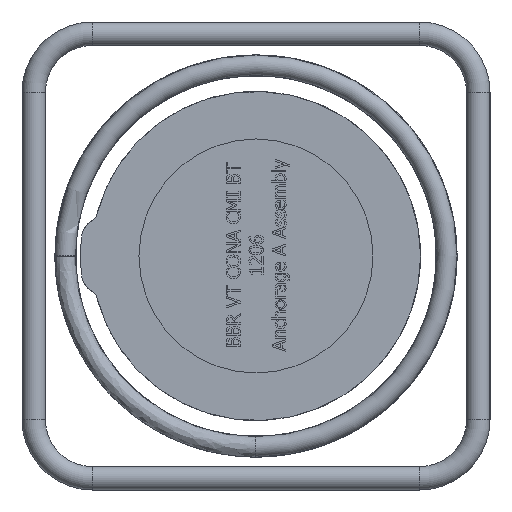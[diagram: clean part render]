
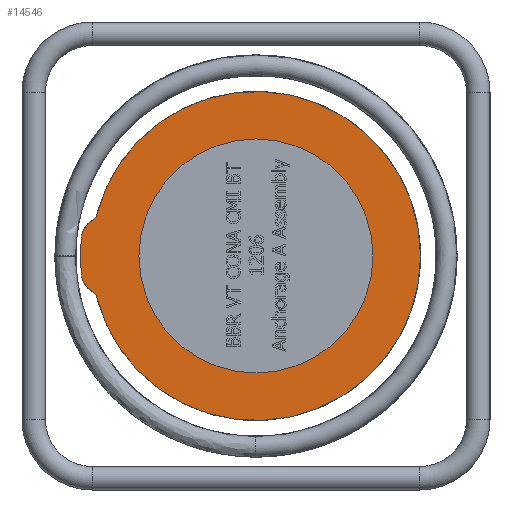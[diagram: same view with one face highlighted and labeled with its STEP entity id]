
A CAD part, left-side view. The second image highlights one B-rep face of the part: STEP entity #14546.
In plain terms, the highlighted planar face has unit normal (-1, 0, 0).
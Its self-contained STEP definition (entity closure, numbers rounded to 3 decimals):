
#102=FACE_BOUND('',#5078,.T.);
#1338=PLANE('',#15131);
#4249=FACE_OUTER_BOUND('',#5077,.T.);
#5077=EDGE_LOOP('',(#12362,#12363,#12364,#12365,#12366,#12367));
#5078=EDGE_LOOP('',(#12368));
#5266=CIRCLE('',#15088,80.);
#5269=CIRCLE('',#15094,5.);
#5277=CIRCLE('',#15108,15.);
#5285=CIRCLE('',#15120,5.);
#5288=CIRCLE('',#15125,112.5);
#5290=CIRCLE('',#15128,15.);
#5292=CIRCLE('',#15132,120.);
#6664=VERTEX_POINT('',#26189);
#6668=VERTEX_POINT('',#26200);
#6669=VERTEX_POINT('',#26202);
#6682=VERTEX_POINT('',#26259);
#6692=VERTEX_POINT('',#26300);
#6693=VERTEX_POINT('',#26302);
#6696=VERTEX_POINT('',#26315);
#8566=EDGE_CURVE('',#6664,#6664,#5266,.T.);
#8570=EDGE_CURVE('',#6668,#6669,#5269,.T.);
#8589=EDGE_CURVE('',#6669,#6682,#5277,.T.);
#8603=EDGE_CURVE('',#6692,#6693,#5285,.T.);
#8607=EDGE_CURVE('',#6668,#6693,#5288,.T.);
#8611=EDGE_CURVE('',#6696,#6692,#5290,.T.);
#8613=EDGE_CURVE('',#6696,#6682,#5292,.T.);
#12362=ORIENTED_EDGE('',*,*,#8611,.F.);
#12363=ORIENTED_EDGE('',*,*,#8613,.T.);
#12364=ORIENTED_EDGE('',*,*,#8589,.F.);
#12365=ORIENTED_EDGE('',*,*,#8570,.F.);
#12366=ORIENTED_EDGE('',*,*,#8607,.T.);
#12367=ORIENTED_EDGE('',*,*,#8603,.F.);
#12368=ORIENTED_EDGE('',*,*,#8566,.T.);
#14546=ADVANCED_FACE('',(#4249,#102),#1338,.T.);
#15088=AXIS2_PLACEMENT_3D('',#26191,#17317,#17318);
#15094=AXIS2_PLACEMENT_3D('',#26203,#17330,#17331);
#15108=AXIS2_PLACEMENT_3D('',#26260,#17365,#17366);
#15120=AXIS2_PLACEMENT_3D('',#26303,#17393,#17394);
#15125=AXIS2_PLACEMENT_3D('',#26309,#17404,#17405);
#15128=AXIS2_PLACEMENT_3D('',#26317,#17412,#17413);
#15131=AXIS2_PLACEMENT_3D('',#26320,#17418,#17419);
#15132=AXIS2_PLACEMENT_3D('',#26321,#17420,#17421);
#17317=DIRECTION('center_axis',(1.,0.,0.));
#17318=DIRECTION('ref_axis',(0.,0.,
1.));
#17330=DIRECTION('center_axis',(-1.,0.,0.));
#17331=DIRECTION('ref_axis',(0.,-0.789,0.615));
#17365=DIRECTION('center_axis',(1.,0.,0.));
#17366=DIRECTION('ref_axis',(0.,0.7,-0.714));
#17393=DIRECTION('center_axis',(-1.,0.,0.));
#17394=DIRECTION('ref_axis',(0.,-0.789,-0.615));
#17404=DIRECTION('center_axis',(-1.,0.,0.));
#17405=DIRECTION('ref_axis',(0.,-1.,0.));
#17412=DIRECTION('center_axis',(1.,0.,0.));
#17413=DIRECTION('ref_axis',(0.,0.7,0.714));
#17418=DIRECTION('center_axis',(-1.,0.,0.));
#17419=DIRECTION('ref_axis',(0.,0.,
1.));
#17420=DIRECTION('center_axis',(-1.,0.,0.));
#17421=DIRECTION('ref_axis',(0.,1.,0.));
#26189=CARTESIAN_POINT('',(-92.904,-49.335,-80.));
#26191=CARTESIAN_POINT('Origin',(-92.904,-49.335,0.));
#26200=CARTESIAN_POINT('',(-92.904,59.707,-27.679));
#26202=CARTESIAN_POINT('',(-92.904,62.178,-24.509));
#26203=CARTESIAN_POINT('Origin',(-92.904,64.553,-28.909));
#26259=CARTESIAN_POINT('',(-92.904,69.967,-12.924));
#26260=CARTESIAN_POINT('Origin',(-92.904,55.054,-11.308));
#26300=CARTESIAN_POINT('',(-92.904,62.178,24.509));
#26302=CARTESIAN_POINT('',(-92.904,59.707,27.679));
#26303=CARTESIAN_POINT('Origin',(-92.904,64.553,28.909));
#26309=CARTESIAN_POINT('Origin',(-92.904,-49.335,0.));
#26315=CARTESIAN_POINT('',(-92.904,69.967,12.924));
#26317=CARTESIAN_POINT('Origin',(-92.904,55.054,11.308));
#26320=CARTESIAN_POINT('Origin',(-92.904,-137.335,0.));
#26321=CARTESIAN_POINT('Origin',(-92.904,-49.335,0.));
